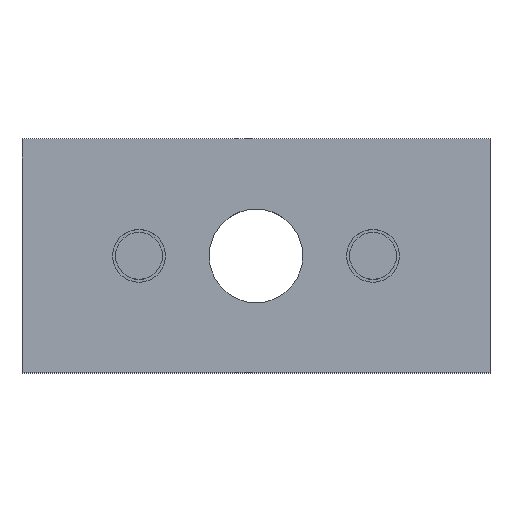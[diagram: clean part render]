
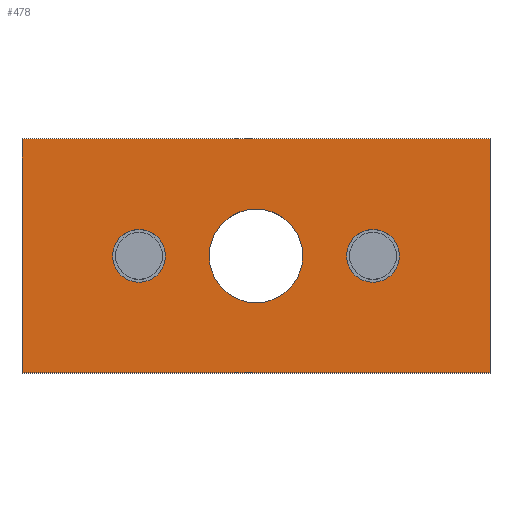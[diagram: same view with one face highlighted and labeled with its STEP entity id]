
A CAD part, top view. The second image highlights one B-rep face of the part: STEP entity #478.
In plain terms, the highlighted planar face has unit normal (0, 0, 1).
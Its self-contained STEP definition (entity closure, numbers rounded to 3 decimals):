
#160=CARTESIAN_POINT('',(-24.5,0.,0.0));
#161=VERTEX_POINT('',#160);
#162=CARTESIAN_POINT('',(-20.,0.,0.0));
#163=DIRECTION('',(0.0,0.0,-1.0));
#164=DIRECTION('',(1.0,0.0,0.0));
#165=AXIS2_PLACEMENT_3D('',#162,#163,#164);
#166=CIRCLE('',#165,4.5);
#167=EDGE_CURVE('',#161,#161,#166,.T.);
#270=CARTESIAN_POINT('',(24.5,0.,0.0));
#271=VERTEX_POINT('',#270);
#272=CARTESIAN_POINT('',(20.,0.,0.0));
#273=DIRECTION('',(0.0,0.0,-1.0));
#274=DIRECTION('',(-1.0,0.0,0.0));
#275=AXIS2_PLACEMENT_3D('',#272,#273,#274);
#276=CIRCLE('',#275,4.5);
#277=EDGE_CURVE('',#271,#271,#276,.T.);
#322=CARTESIAN_POINT('',(8.,0.0,0.0));
#323=VERTEX_POINT('',#322);
#324=CARTESIAN_POINT('',(0.0,0.0,0.0));
#325=DIRECTION('',(0.0,0.0,-1.0));
#326=DIRECTION('',(1.0,0.0,0.0));
#327=AXIS2_PLACEMENT_3D('',#324,#325,#326);
#328=CIRCLE('',#327,8.);
#329=EDGE_CURVE('',#323,#323,#328,.T.);
#349=CARTESIAN_POINT('',(40.,-20.,0.0));
#350=VERTEX_POINT('',#349);
#357=CARTESIAN_POINT('',(-40.,-20.,0.0));
#358=VERTEX_POINT('',#357);
#359=CARTESIAN_POINT('',(40.,-20.,0.0));
#360=DIRECTION('',(-1.0,0.0,0.0));
#361=VECTOR('',#360,80.);
#362=LINE('',#359,#361);
#363=EDGE_CURVE('',#350,#358,#362,.T.);
#387=CARTESIAN_POINT('',(40.,20.,0.0));
#388=VERTEX_POINT('',#387);
#395=CARTESIAN_POINT('',(40.,20.,0.0));
#396=DIRECTION('',(0.0,-1.0,0.0));
#397=VECTOR('',#396,40.);
#398=LINE('',#395,#397);
#399=EDGE_CURVE('',#388,#350,#398,.T.);
#418=CARTESIAN_POINT('',(-40.,20.,0.0));
#419=VERTEX_POINT('',#418);
#426=CARTESIAN_POINT('',(-40.,20.,0.0));
#427=DIRECTION('',(1.0,0.0,0.0));
#428=VECTOR('',#427,80.);
#429=LINE('',#426,#428);
#430=EDGE_CURVE('',#419,#388,#429,.T.);
#448=CARTESIAN_POINT('',(-40.,-20.,0.0));
#449=DIRECTION('',(0.0,1.0,0.0));
#450=VECTOR('',#449,40.);
#451=LINE('',#448,#450);
#452=EDGE_CURVE('',#358,#419,#451,.T.);
#458=CARTESIAN_POINT('',(0.,0.0,0.0));
#459=DIRECTION('',(0.0,0.0,1.0));
#460=DIRECTION('',(1.0,0.0,0.0));
#461=AXIS2_PLACEMENT_3D('',#458,#459,#460);
#462=PLANE('',#461);
#463=ORIENTED_EDGE('',*,*,#452,.F.);
#464=ORIENTED_EDGE('',*,*,#363,.F.);
#465=ORIENTED_EDGE('',*,*,#399,.F.);
#466=ORIENTED_EDGE('',*,*,#430,.F.);
#467=EDGE_LOOP('',(#463,#464,#465,#466));
#468=FACE_OUTER_BOUND('',#467,.T.);
#469=ORIENTED_EDGE('',*,*,#167,.T.);
#470=EDGE_LOOP('',(#469));
#471=FACE_BOUND('',#470,.T.);
#472=ORIENTED_EDGE('',*,*,#277,.T.);
#473=EDGE_LOOP('',(#472));
#474=FACE_BOUND('',#473,.T.);
#475=ORIENTED_EDGE('',*,*,#329,.T.);
#476=EDGE_LOOP('',(#475));
#477=FACE_BOUND('',#476,.T.);
#478=ADVANCED_FACE('',(#468,#471,#474,#477),#462,.T.);
